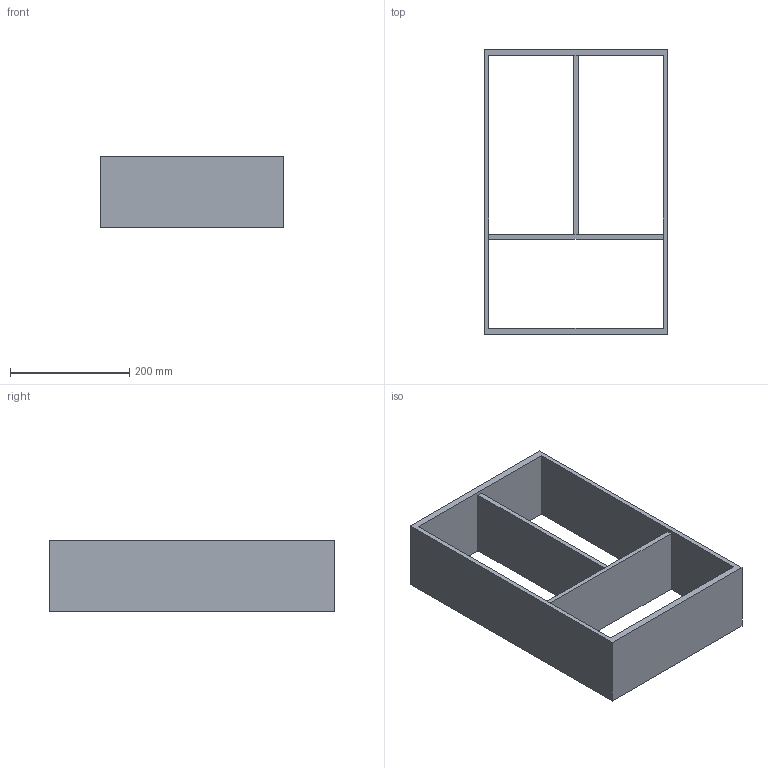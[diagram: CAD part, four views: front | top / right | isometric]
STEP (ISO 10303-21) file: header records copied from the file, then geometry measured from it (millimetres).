
FILE_DESCRIPTION (( 'STEP AP214' ), '1' );
FILE_NAME ('Vario Multi H120 NL500_B400_16 mm_Alu-Alu.step', '2010-10-08T09:48:00', ( 'grass' ), ( '' ), 'SwSTEP 2.0', 'SolidWorks 2010', '' );
FILE_SCHEMA (( 'AUTOMOTIVE_DESIGN' ));
Length unit declared in the file: millimetre
Products named in the file (1): Vario Multi H120 NL500_B400_16 mm_Alu-Alu
Bounding box: 308 x 479 x 120 mm (x, y, z)
Volume: 2230162.3 mm3; surface area: 537538.2 mm2
Topology: 1 solids, 1 shells, 18 faces, 48 edges, 32 vertices
Faces by surface type: plane 18
Entity records: 598 total; most frequent: CARTESIAN_POINT 99, ORIENTED_EDGE 96, DIRECTION 86, VECTOR 48, LINE 48, EDGE_CURVE 48, VERTEX_POINT 32, EDGE_LOOP 24
